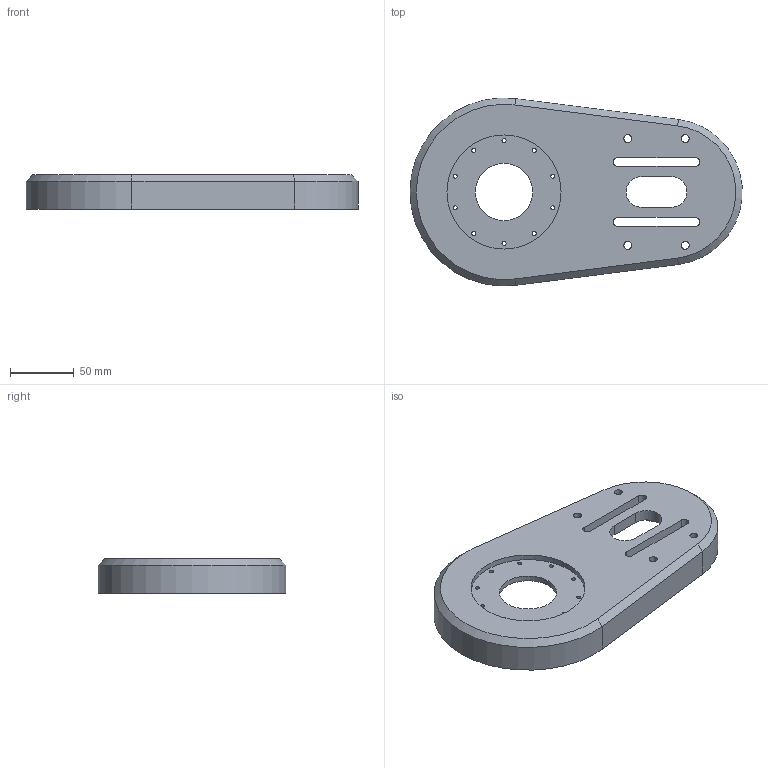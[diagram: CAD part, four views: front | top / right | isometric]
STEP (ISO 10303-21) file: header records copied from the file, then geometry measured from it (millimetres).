
FILE_DESCRIPTION(/* description */ (''),/* implementation_level */ '2;1');
FILE_NAME(/* name */ 'baseV2.step',/* time_stamp */ '2026-06-03T23:44:36+01:00',/* author */ (''),/* organization */ (''),/* preprocessor_version */ 'ST-DEVELOPER v20.1',/* originating_system */ 'Autodesk Translation Framework v15.8.0.0',/* authorisation */ '');
FILE_SCHEMA (('AUTOMOTIVE_DESIGN { 1 0 10303 214 3 1 1 }'));
Length unit declared in the file: millimetre
Products named in the file (1): baseV2
Bounding box: 261.29 x 147.87 x 27 mm (x, y, z)
Volume: 355318.7 mm3; surface area: 89567.3 mm2
Topology: 1 solids, 1 shells, 72 faces, 205 edges, 135 vertices
Faces by surface type: cylinder 42, plane 20, cone 10
Full cylindrical faces by diameter (mm): 3.2 x10, 6.2 x4, 45 x1, 89.8 x1
Entity records: 2564 total; most frequent: CARTESIAN_POINT 514, DIRECTION 436, ORIENTED_EDGE 410, EDGE_CURVE 205, AXIS2_PLACEMENT_3D 172, VERTEX_POINT 135, EDGE_LOOP 108, CIRCLE 97
